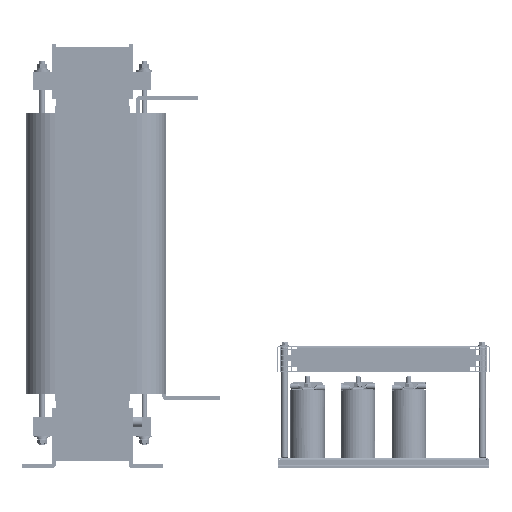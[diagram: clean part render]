
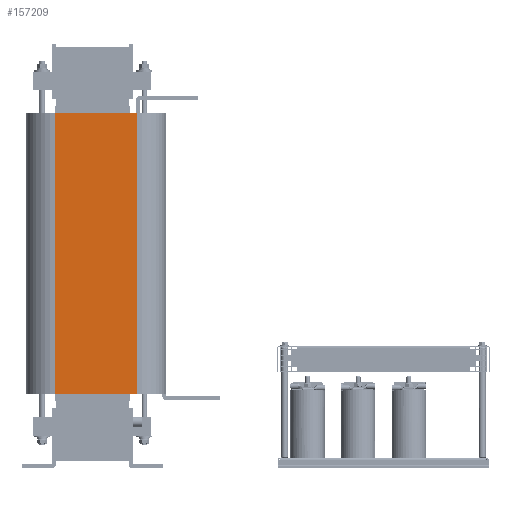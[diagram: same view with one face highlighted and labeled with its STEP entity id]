
A CAD part, left-side view. The second image highlights one B-rep face of the part: STEP entity #157209.
In plain terms, the highlighted planar face has unit normal (-1, 0, 0).
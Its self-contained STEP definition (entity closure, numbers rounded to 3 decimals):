
#15369=LINE('',#287820,#27111);
#15521=LINE('',#288406,#27263);
#15805=LINE('',#289227,#27547);
#15806=LINE('',#289229,#27548);
#27111=VECTOR('',#202963,10.);
#27263=VECTOR('',#203437,10.);
#27547=VECTOR('',#204229,10.);
#27548=VECTOR('',#204232,10.);
#41671=FACE_OUTER_BOUND('',#52562,.T.);
#52562=EDGE_LOOP('',(#131475,#131476,#131477,#131478));
#71533=VERTEX_POINT('',#287817);
#71534=VERTEX_POINT('',#287819);
#71801=VERTEX_POINT('',#288392);
#71807=VERTEX_POINT('',#288404);
#91517=EDGE_CURVE('',#71534,#71533,#15369,.T.);
#91813=EDGE_CURVE('',#71801,#71807,#15521,.T.);
#92230=EDGE_CURVE('',#71801,#71533,#15805,.T.);
#92231=EDGE_CURVE('',#71807,#71534,#15806,.T.);
#131475=ORIENTED_EDGE('',*,*,#91517,.T.);
#131476=ORIENTED_EDGE('',*,*,#92230,.F.);
#131477=ORIENTED_EDGE('',*,*,#91813,.T.);
#131478=ORIENTED_EDGE('',*,*,#92231,.T.);
#140578=PLANE('',#169649);
#157209=ADVANCED_FACE('',(#41671),#140578,.T.);
#169649=AXIS2_PLACEMENT_3D('',#289228,#204230,#204231);
#202963=DIRECTION('',(0.,1.,0.));
#203437=DIRECTION('',(0.,-1.,0.));
#204229=DIRECTION('',(0.,0.,1.));
#204230=DIRECTION('center_axis',(-1.,0.,0.));
#204231=DIRECTION('ref_axis',(0.,0.,1.));
#204232=DIRECTION('',(0.,0.,1.));
#287817=CARTESIAN_POINT('',(1439.754,943.158,1049.766));
#287819=CARTESIAN_POINT('',(1439.754,765.158,1049.766));
#287820=CARTESIAN_POINT('',(1439.754,943.158,1049.766));
#288392=CARTESIAN_POINT('',(1439.754,943.158,439.766));
#288404=CARTESIAN_POINT('',(1439.754,765.158,439.766));
#288406=CARTESIAN_POINT('',(1439.754,943.158,439.766));
#289227=CARTESIAN_POINT('',(1439.754,943.158,439.766));
#289228=CARTESIAN_POINT('Origin',(1439.754,765.158,439.766));
#289229=CARTESIAN_POINT('',(1439.754,765.158,439.766));
